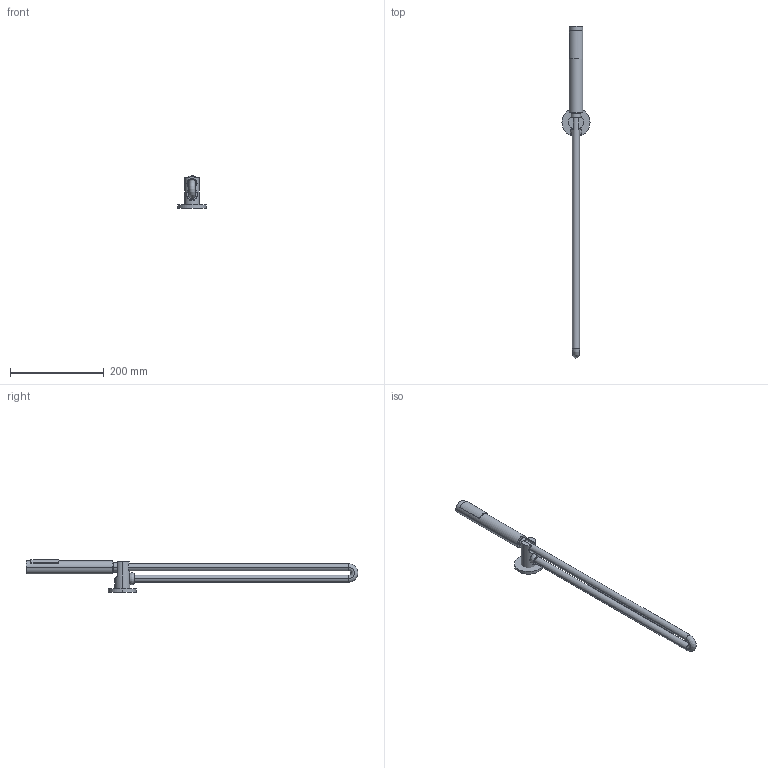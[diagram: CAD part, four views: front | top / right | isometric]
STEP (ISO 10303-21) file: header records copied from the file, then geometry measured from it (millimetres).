
FILE_DESCRIPTION(('FreeCAD Model'),'2;1');
FILE_NAME('Open CASCADE Shape Model','2024-10-30T15:59:33',('Author'),( ''),'Open CASCADE STEP processor 7.6','FreeCAD','Unknown');
FILE_SCHEMA(('AUTOMOTIVE_DESIGN { 1 0 10303 214 1 1 1 1 }'));
Length unit declared in the file: millimetre
Products named in the file (9): TopLevelAssembly; Wyciąganie001; Połączona geometria bryłowa; Obrót profilu; Wyciągnięcie po ścieżce; RoundHandset003; RoundHandset; RoundHandset001; RoundHandset002
Assembly tree (8 placements, depth 3):
  TopLevelAssembly
    Wyciąganie001
    Połączona geometria bryłowa
    Obrót profilu
    Wyciągnięcie po ścieżce
    RoundHandset003
      RoundHandset
      RoundHandset001
      RoundHandset002
Bounding box: 60 x 708.98 x 69.39 mm (x, y, z)
Volume: 361382.3 mm3; surface area: 86502.9 mm2
Topology: 7 solids, 7 shells, 50 faces, 88 edges, 52 vertices
Faces by surface type: plane 29, cylinder 17, bspline 4
Entity records: 1511 total; most frequent: CARTESIAN_POINT 317, DIRECTION 241, ORIENTED_EDGE 176, AXIS2_PLACEMENT_3D 99, EDGE_CURVE 88, VERTEX_POINT 52, ADVANCED_FACE 50, FACE_BOUND 50
